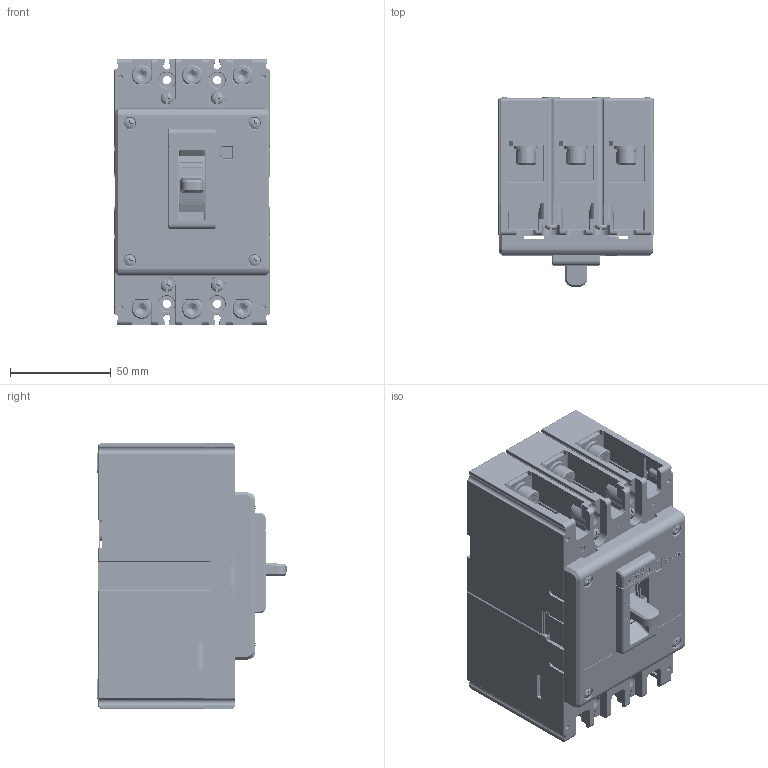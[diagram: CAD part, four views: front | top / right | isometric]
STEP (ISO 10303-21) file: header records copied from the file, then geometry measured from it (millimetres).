
FILE_DESCRIPTION((''),'2;1');
FILE_NAME('2253055400_ASM_ASM','2025-04-28T',('Administrator'),(''),'PRO/ENGINEER BY PARAMETRIC TECHNOLOGY CORPORATION, 2015440','PRO/ENGINEER BY PARAMETRIC TECHNOLOGY CORPORATION, 2015440','');
FILE_SCHEMA(('CONFIG_CONTROL_DESIGN'));
Products named in the file (53): JZ_5024049300_1; 5024049300_ASM_1_ASM; 5551123800_ASM_1_ASM; 8585079800_1; MANIFOLD_SOLID_BREP_75345; MANIFOLD_SOLID_BREP_75495; 8505032700_1_ASM; 5551123900_ASM_1_ASM; 5551124000_ASM_1_ASM; 5551124800_ASM_1_ASM; 8742136400_1; 8585079700_1; 5551123400_ASM_1_ASM; 5551123500_ASM_1_ASM; 5551125100_ASM_1_ASM; 82060528P01_1; 5295015500_ASM_1_ASM; 8750042600_1; 7010100311L_GB_T823_M3X18_1; 7090300017_GB_T9074_26_3_1; GB_T97_4_3_1; 5850015300_ASM_1_ASM; 8253057100_1; 8865077900_AF0_1; 8865078000_AF0_1; 5253022600_ASM_1_ASM; 8742102100_1; 5612034900_ASM_1_ASM; 7010100303L_GB_T823_M3X6_1; 7090300201_GB_T93_3_1; 5850006100_ASM_1_ASM; 8315111900_1; MANIFOLD_SOLID_BREP_319403; MANIFOLD_SOLID_BREP_319741; MANIFOLD_SOLID_BREP_320079; 8742136300_1_ASM; 5315063700_ASM_1_ASM; 8742136800_1; 8315111800_1; 8253076700_1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
Assembly tree (99 placements, depth 7):
  2253055400_ASM_ASM
    2253055400_ASM_1_ASM
      5024049300_ASM_1_ASM
        JZ_5024049300_1
      5551124800_ASM_1_ASM  x3
        5551124000_ASM_1_ASM
          5551123900_ASM_1_ASM
            5551123800_ASM_1_ASM
            8585079800_1
            8505032700_1_ASM  x2
              MANIFOLD_SOLID_BREP_75345
              MANIFOLD_SOLID_BREP_75495
      8742136400_1  x3
      5295015500_ASM_1_ASM
        5551125100_ASM_1_ASM
          5551123500_ASM_1_ASM  x3
            5551123400_ASM_1_ASM
              8585079700_1
        82060528P01_1
      8750042600_1
      5850015300_ASM_1_ASM  x4
        7010100311L_GB_T823_M3X18_1
        7090300017_GB_T9074_26_3_1
        GB_T97_4_3_1
      5253022600_ASM_1_ASM
        8253057100_1
        8865077900_AF0_1
        8865078000_AF0_1
      8742102100_1
      5612034900_ASM_1_ASM  x3
      5850006100_ASM_1_ASM  x12
        7010100303L_GB_T823_M3X6_1
        7090300201_GB_T93_3_1
        GB_T97_4_3_1
      5315063700_ASM_1_ASM
        8315111900_1
        8742136300_1_ASM  x3
          MANIFOLD_SOLID_BREP_319403
          MANIFOLD_SOLID_BREP_319741
          MANIFOLD_SOLID_BREP_320079
      8742136800_1  x3
      5315064000_ASM_1_ASM
        8315111800_1
        8253076700_1
        8282071100_1
      7020100411_GB13806_2_ST2_9X8_A_  x4
      8906008200_1  x4
      7080100020_GB_T6170_M6_1  x6
      8742102000_1  x2
      8288063200_1  x3
      5850012200_ASM_1_ASM  x6
        7010600302J_GB_T70_1_M6X16_1
        7090300601J_GB_T93_6_1
        GB_T97_1-6_1
Bounding box: 77 x 93.99 x 132 mm (x, y, z)
Volume: 274834.6 mm3; surface area: 234808.4 mm2
Topology: 129 solids, 174 shells, 8972 faces, 23648 edges, 14788 vertices
Faces by surface type: plane 4009, cylinder 2952, torus 540, cone 440, extrusion 424, sphere 354, bspline 245, revolution 8
Entity records: 248523 total; most frequent: CARTESIAN_POINT 70194, ORIENTED_EDGE 37718, DIRECTION 36494, EDGE_CURVE 18879, AXIS2_PLACEMENT_3D 12581, VERTEX_POINT 12009, VECTOR 11330, LINE 10918
